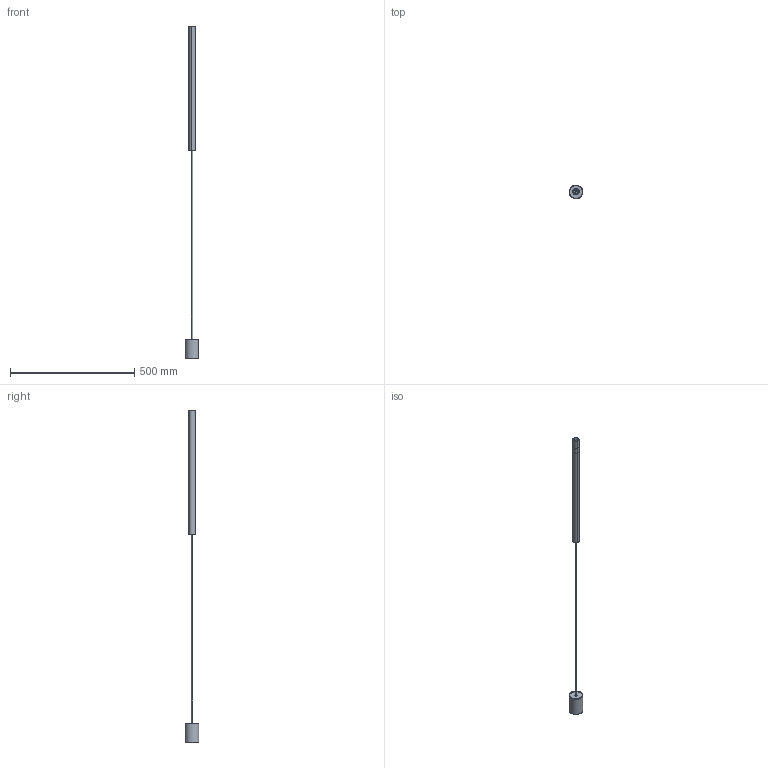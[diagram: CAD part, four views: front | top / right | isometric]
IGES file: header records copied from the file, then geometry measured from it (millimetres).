
Start section: SolidWorks IGES file using analytic representation for surfaces
Global section: file name: Z:\Modele 3D_WWW\_KOLEKCJE_WWW\LASER\LASER-8796-8797\LASER-8796-8797.IGS; native system: SolidWorks 2020; preprocessor: SolidWorks 2020; author: gabriela.tworek; date: 210514.090951; units: millimetre
Bounding box: 54.99 x 54.99 x 1335.1 mm (x, y, z)
Surface area: 129169.2 mm2 (no closed solid volume)
Topology: 0 solids, 0 shells, 151 faces, 2314 edges, 2310 vertices
Faces by surface type: bspline 76, revolution 75
